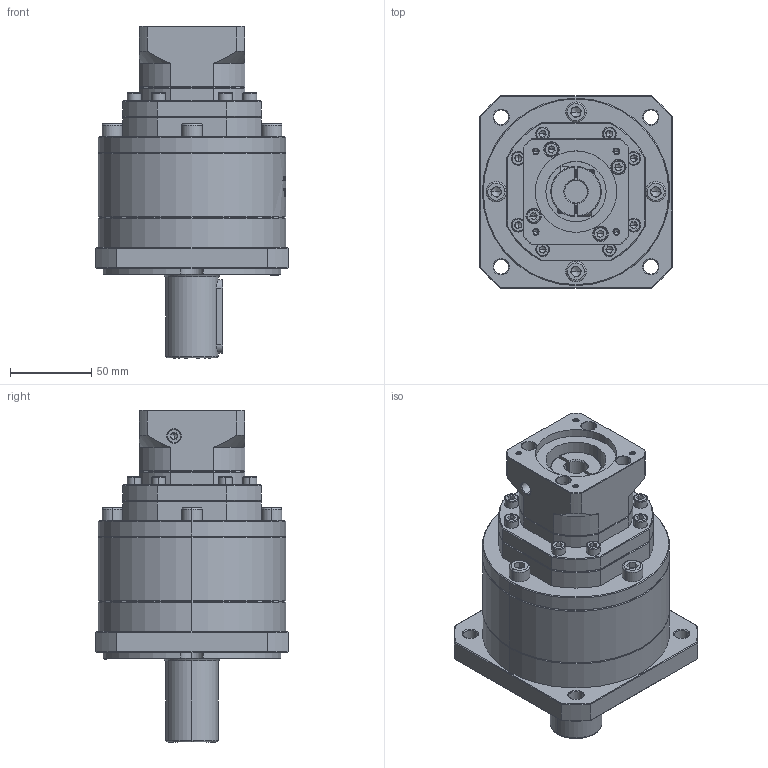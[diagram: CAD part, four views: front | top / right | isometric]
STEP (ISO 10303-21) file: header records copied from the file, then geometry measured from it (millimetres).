
FILE_DESCRIPTION (( 'STEP AP214' ), '1' );
FILE_NAME ('ZF120A-D32-L3-14-50-70-M4.step', '2023-03-07T15:55:46', ( '' ), ( 'Microsoft' ), 'SwSTEP 2.0', 'SolidWorks 2016', '' );
FILE_SCHEMA (( 'AUTOMOTIVE_DESIGN' ));
Length unit declared in the file: millimetre
Products named in the file (1): ZF120A-D32-L3-14-50-70-M4
Bounding box: 118 x 118 x 204 mm (x, y, z)
Volume: 1225802.5 mm3; surface area: 116843.6 mm2
Topology: 7 solids, 7 shells, 2071 faces, 5447 edges, 3479 vertices
Faces by surface type: plane 1002, cylinder 411, bspline 337, cone 299, torus 22
Entity records: 107045 total; most frequent: CARTESIAN_POINT 36892, ORIENTED_EDGE 10786, DIRECTION 8537, EDGE_CURVE 5393, VERTEX_POINT 3479, VECTOR 2961, LINE 2961, AXIS2_PLACEMENT_3D 2788
